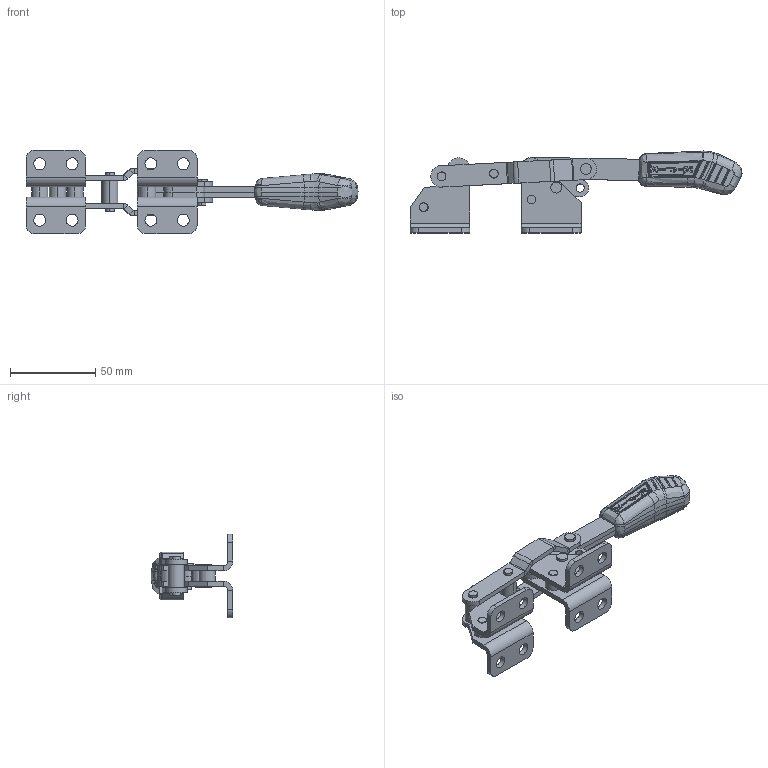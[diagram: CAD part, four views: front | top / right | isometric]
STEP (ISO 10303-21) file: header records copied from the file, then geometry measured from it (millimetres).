
FILE_DESCRIPTION (( 'STEP AP203' ), '1' );
FILE_NAME ('KF-310 D.STEP', '2014-08-22T16:31:29', ( 'Ricardo' ), ( '' ), 'SwSTEP 2.0', 'SolidWorks 2013', '' );
FILE_SCHEMA (( 'CONFIG_CONTROL_DESIGN' ));
Length unit declared in the file: millimetre
Products named in the file (12): 02.12056_Direita; 04.10008; 02.12056_Esquerda; 16.20046; 02.12057_Direita; 06.50004; 02.12057_Esquerda; 07.60005; 01.10071; KF-310 D; 03.10007; 16.20045
Assembly tree (19 placements, depth 2):
  KF-310 D
    02.12056_Direita
    02.12056_Esquerda
    02.12057_Direita
    02.12057_Esquerda
    01.10071  x2
    03.10007  x2
    16.20045  x2
    04.10008  x2
    16.20046  x3
    06.50004  x3
    07.60005
Bounding box: 194.57 x 48.03 x 49 mm (x, y, z)
Volume: 56488.1 mm3; surface area: 40614.8 mm2
Topology: 19 solids, 19 shells, 944 faces, 2340 edges, 1458 vertices
Faces by surface type: cylinder 338, plane 277, bspline 269, sphere 50, cone 8, torus 2
Entity records: 32990 total; most frequent: CARTESIAN_POINT 14045, ORIENTED_EDGE 4170, DIRECTION 2920, EDGE_CURVE 2085, VERTEX_POINT 1306, AXIS2_PLACEMENT_3D 1089, EDGE_LOOP 901, ADVANCED_FACE 825
